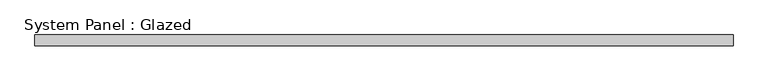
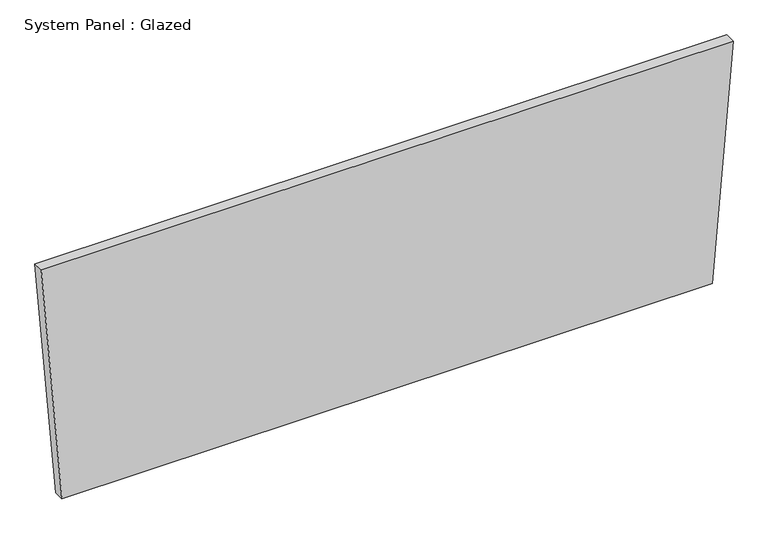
"""IFC4 building model written with IfcOpenShell, lengths in millimetres: plate geometry, System Panel : Glazed."""

from ifc_helpers import new_model, si_unit, frame, origin, place, context, project, spatial, polyline, outline, extrude, source, transform, mapped, element, save


def system_panel_glazed_c9a67386(model_context):
    return source(origin(), model_context, "Body", "SweptSolid", [
        extrude(outline(polyline([(0.0, -759.2262394), (0.0, 759.2262394), (582.1260136, 807.3680975), (582.1260136, -807.3680975), (0.0, -759.2262394)])), frame((0.0, -44.45, 0.0), z_axis=(0.0, 1.0, 0.0), x_axis=(0.0, 0.0, 1.0)), (0.0, 0.0, 1.0), 25.4),
    ])


if __name__ == "__main__":
    model = new_model("IFC4")
    model_context = context("Model", 3, world=origin())
    ifc_project = project(units=[si_unit("LENGTHUNIT", "METRE", prefix="MILLI")], contexts=[model_context])
    site = spatial("IfcSite", under=ifc_project)
    building = spatial("IfcBuilding", under=site)
    placement = place(None, origin())
    system_panel_glazed_shape = system_panel_glazed_c9a67386(model_context)
    element("IfcPlate", 1, ObjectType="System Panel : Glazed", at=placement, inside=building, context=model_context, shape_type="MappedRepresentation", body=[
        mapped(system_panel_glazed_shape, transform((0.0, 0.0, 0.0), x_axis=(1.0, 0.0, 0.0), y_axis=(0.0, 1.0, 0.0), z_axis=(0.0, 0.0, 1.0))),
    ])
    save(model, "model.ifc")
